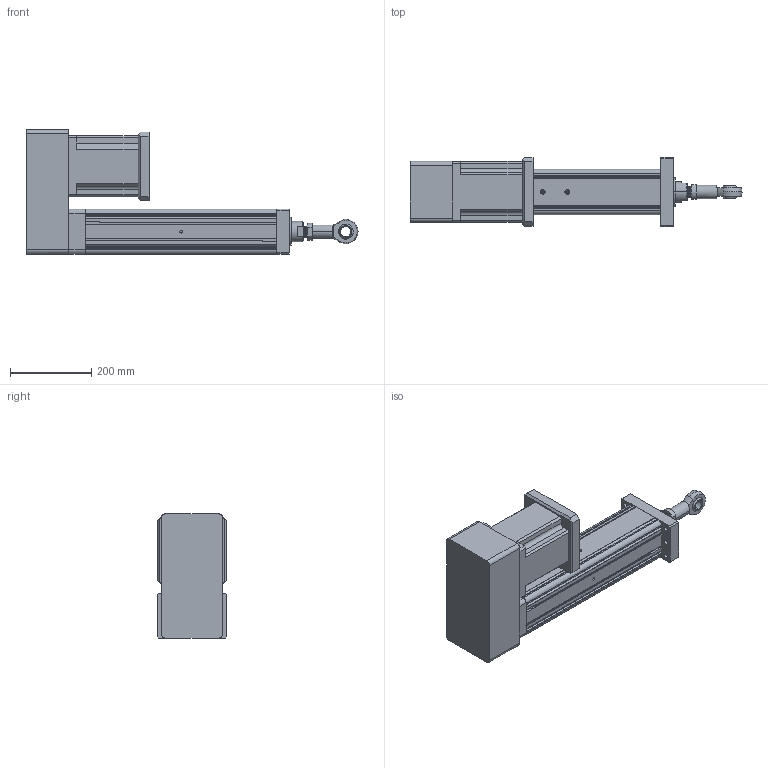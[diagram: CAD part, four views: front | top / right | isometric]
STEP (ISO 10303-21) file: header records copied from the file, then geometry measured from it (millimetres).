
FILE_DESCRIPTION (( 'STEP AP203' ), '1' );
FILE_NAME ('YRJ110-L300-H3K3.STEP', '2020-01-04T06:25:10', ( 'User' ), ( 'China' ), 'SwSTEP 2.0', 'SolidWorks 2016', '' );
FILE_SCHEMA (( 'CONFIG_CONTROL_DESIGN' ));
Length unit declared in the file: millimetre
Products named in the file (11): 095-100俴最倰第; BNC01-SI25T_K-R; 萇儂碟-110; K3-110; 142熬厒儂; H3-110-1; K1-110; H3-110-2; _BNC01-SI25T_K-R-001; YRJ110-L300-H3K3; _BNC01-SI25T_K-R-002
Assembly tree (10 placements, depth 4):
  YRJ110-L300-H3K3
    095-100俴最倰第
    萇儂碟-110
    142熬厒儂
    K3-110
      K1-110
      BNC01-SI25T_K-R
        _BNC01-SI25T_K-R-001
        _BNC01-SI25T_K-R-002
    H3-110-1
    H3-110-2
Bounding box: 815 x 170 x 305.5 mm (x, y, z)
Volume: 12016754.5 mm3; surface area: 945399 mm2
Topology: 8 solids, 8 shells, 396 faces, 1101 edges, 709 vertices
Faces by surface type: plane 178, cylinder 170, cone 34, bspline 14
Entity records: 22819 total; most frequent: CARTESIAN_POINT 11710, ORIENTED_EDGE 2146, DIRECTION 1998, EDGE_CURVE 1073, VERTEX_POINT 709, AXIS2_PLACEMENT_3D 677, LINE 644, VECTOR 644
